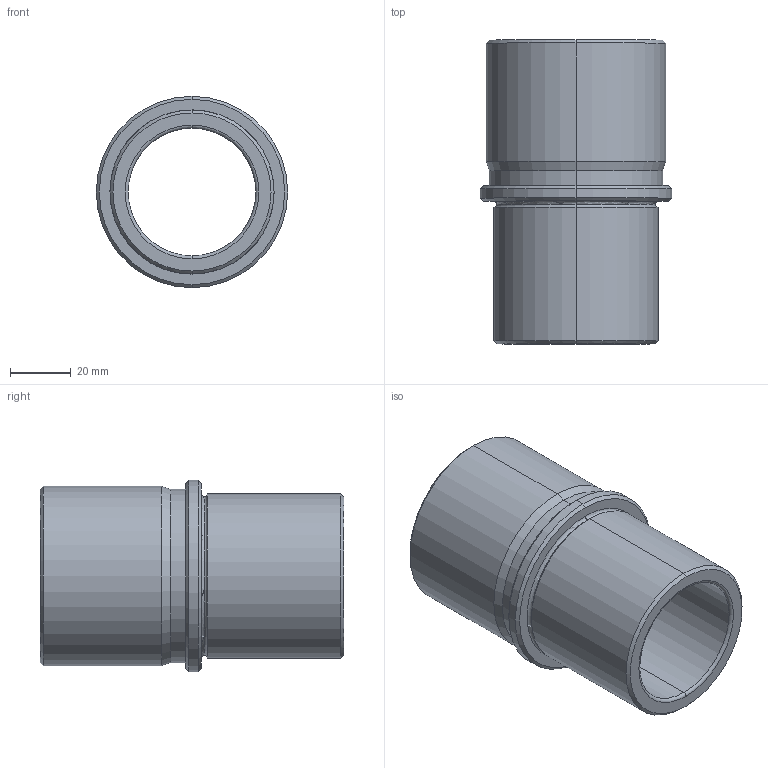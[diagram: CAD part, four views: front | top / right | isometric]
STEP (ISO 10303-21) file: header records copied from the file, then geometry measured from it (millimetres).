
FILE_DESCRIPTION(('CATIA V5 STEP Exchange'),'2;1');
FILE_NAME('C:\Users\Utente\Desktop\IO LAVORO\3D X SITO CF\X SITO\CF 450\CF 450 42x100.stp','2020-12-27T17:52:45+00:00',('none'),('none'),'CATIA Version 5 Release 20 GA (IN-10)','CATIA V5 STEP AP203','none');
FILE_SCHEMA(('CONFIG_CONTROL_DESIGN'));
Length unit declared in the file: millimetre
Products named in the file (1): CF 450 42x100
Bounding box: 63 x 100 x 63 mm (x, y, z)
Volume: 114036.3 mm3; surface area: 34312.9 mm2
Topology: 1 solids, 1 shells, 32 faces, 98 edges, 70 vertices
Faces by surface type: cone 10, cylinder 10, torus 8, plane 4
Entity records: 1236 total; most frequent: CARTESIAN_POINT 313, ORIENTED_EDGE 196, DIRECTION 154, AXIS2_PLACEMENT_3D 103, EDGE_CURVE 98, CIRCLE 70, VERTEX_POINT 70, EDGE_LOOP 36
